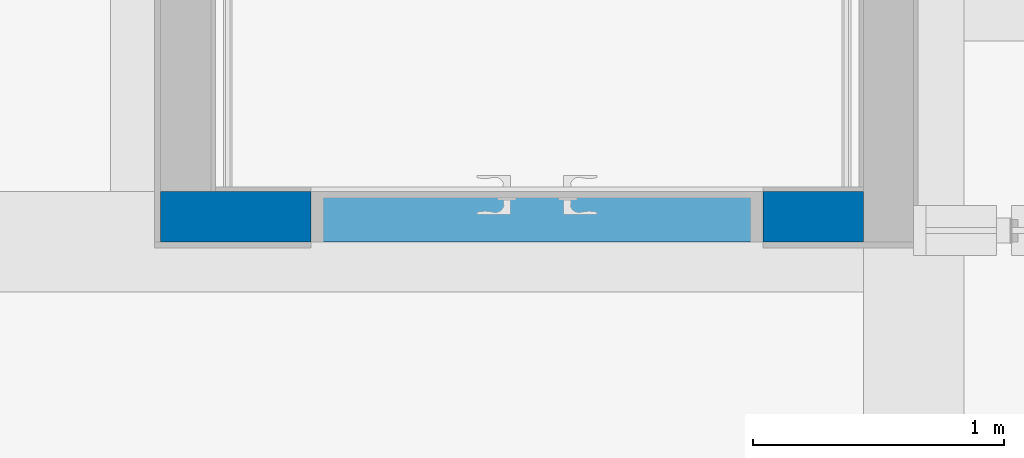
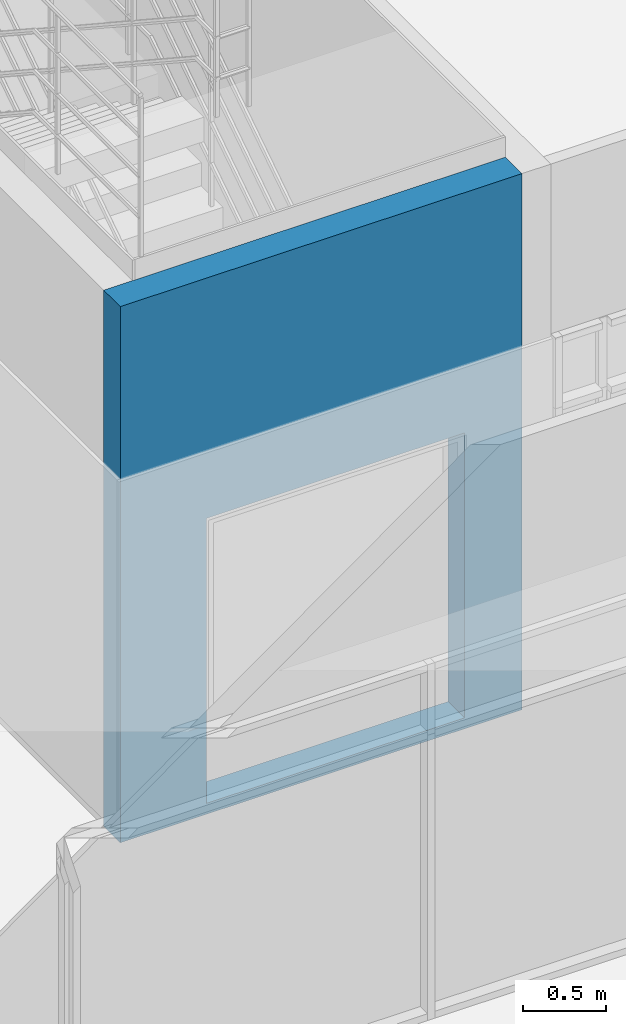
# One storey, part 45 of 81: 1 wall, 1 opening.
"""IFC2X3 building model written with IfcOpenShell, lengths in millimetres."""

from ifc_helpers import new_model, entity, si_unit, converted_unit, derived_unit, direction, frame, frame_2d, origin, place, context, subcontext, project, spatial, polyline, rectangle, extrude, clip, bounded_halfspace, material, layer, layer_set, layer_usage, type_object, element, save


model = new_model("IFC2X3")

# Units and contexts
model_context = context("Model", 3, precision=0.01, world=origin(), true_north=direction((6.123031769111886e-17, 1.0)))
body_context = subcontext(model_context, "Body", "Model", "MODEL_VIEW")
ifc_project = project(units=[si_unit("LENGTHUNIT", "METRE", prefix="MILLI"), si_unit("AREAUNIT", "SQUARE_METRE"), si_unit("VOLUMEUNIT", "CUBIC_METRE"), converted_unit("PLANEANGLEUNIT", "DEGREE", entity("IfcRatioMeasure", 0.017453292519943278), si_unit("PLANEANGLEUNIT", "RADIAN"), dimensions=[0, 0, 0, 0, 0, 0, 0]), si_unit("MASSUNIT", "GRAM", prefix="KILO"), derived_unit("MASSDENSITYUNIT", [(si_unit("MASSUNIT", "GRAM", prefix="KILO"), 1), (si_unit("LENGTHUNIT", "METRE"), -3)]), derived_unit("MOMENTOFINERTIAUNIT", [(si_unit("LENGTHUNIT", "METRE"), 4)]), si_unit("TIMEUNIT", "SECOND"), si_unit("FREQUENCYUNIT", "HERTZ"), si_unit("THERMODYNAMICTEMPERATUREUNIT", "DEGREE_CELSIUS"), derived_unit("THERMALTRANSMITTANCEUNIT", [(si_unit("MASSUNIT", "GRAM", prefix="KILO"), 1), (si_unit("THERMODYNAMICTEMPERATUREUNIT", "KELVIN"), -1), (si_unit("TIMEUNIT", "SECOND"), -3)]), derived_unit("VOLUMETRICFLOWRATEUNIT", [(si_unit("LENGTHUNIT", "METRE"), 3), (si_unit("TIMEUNIT", "SECOND"), -1)]), derived_unit("MASSFLOWRATEUNIT", [(si_unit("MASSUNIT", "GRAM", prefix="KILO"), 1), (si_unit("TIMEUNIT", "SECOND"), -1)]), derived_unit("ROTATIONALFREQUENCYUNIT", [(si_unit("TIMEUNIT", "SECOND"), -1)]), si_unit("ELECTRICCURRENTUNIT", "AMPERE"), si_unit("ELECTRICVOLTAGEUNIT", "VOLT"), si_unit("POWERUNIT", "WATT"), si_unit("FORCEUNIT", "NEWTON", prefix="KILO"), si_unit("ILLUMINANCEUNIT", "LUX"), si_unit("LUMINOUSFLUXUNIT", "LUMEN"), si_unit("LUMINOUSINTENSITYUNIT", "CANDELA"), derived_unit("USERDEFINED", [(si_unit("MASSUNIT", "GRAM", prefix="KILO"), -1), (si_unit("LENGTHUNIT", "METRE"), -2), (si_unit("TIMEUNIT", "SECOND"), 3), (si_unit("LUMINOUSFLUXUNIT", "LUMEN"), 1)]), derived_unit("SOUNDPOWERUNIT", [(si_unit("MASSUNIT", "GRAM", prefix="KILO"), 1), (si_unit("LENGTHUNIT", "METRE"), 2), (si_unit("TIMEUNIT", "SECOND"), -3)]), derived_unit("SOUNDPRESSUREUNIT", [(si_unit("MASSUNIT", "GRAM", prefix="KILO"), 1), (si_unit("LENGTHUNIT", "METRE"), -1), (si_unit("TIMEUNIT", "SECOND"), -2)]), derived_unit("LINEARVELOCITYUNIT", [(si_unit("LENGTHUNIT", "METRE"), 1), (si_unit("TIMEUNIT", "SECOND"), -1)]), si_unit("PRESSUREUNIT", "PASCAL"), derived_unit("USERDEFINED", [(si_unit("LENGTHUNIT", "METRE"), -2), (si_unit("MASSUNIT", "GRAM", prefix="KILO"), 1), (si_unit("TIMEUNIT", "SECOND"), -2)]), derived_unit("LINEARFORCEUNIT", [(si_unit("MASSUNIT", "GRAM", prefix="KILO"), 1), (si_unit("LENGTHUNIT", "METRE"), 1), (si_unit("TIMEUNIT", "SECOND"), -2), (si_unit("LENGTHUNIT", "METRE"), -1)]), derived_unit("PLANARFORCEUNIT", [(si_unit("MASSUNIT", "GRAM", prefix="KILO"), 1), (si_unit("LENGTHUNIT", "METRE"), 1), (si_unit("TIMEUNIT", "SECOND"), -2), (si_unit("LENGTHUNIT", "METRE"), -2)])], contexts=[model_context])

# Site, building, storey
site_placement = place(None, frame((-14167.972527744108, -657.2125860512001, 0.0)))
site = spatial("IfcSite", under=ifc_project, at=site_placement, Name="Default", CompositionType="ELEMENT")
building_placement = place(site_placement, origin())
building = spatial("IfcBuilding", under=site, at=building_placement, Name="Sample Building", CompositionType="ELEMENT")
storey_placement = place(building_placement, frame((0.0, 0.0, 13400.0)))
storey = spatial("IfcBuildingStorey", under=building, at=storey_placement, Name="지상 4층", CompositionType="ELEMENT", Elevation=13400.00000000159)

# Wall, opening
ifc_material = material(Name="KBIMS-콘크리트")
ifc_layer = layer(ifc_material, 200.0)
ifc_layer_set = layer_set([ifc_layer], Name="기본 벽:WA111-철근콘크리트구조 벽 200mm_CW1")
ifc_layer_usage = layer_usage(ifc_layer_set, "AXIS2", "NEGATIVE", 100.0)
wall_type = type_object("IfcWallType", Name="기본 벽:WA111-철근콘크리트구조 벽 200mm_CW1", PredefinedType="STANDARD", material=ifc_layer_set)
wall_placement = place(storey_placement, frame((37967.96379814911, 15657.212295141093, -2.3000097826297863e-09)))
wall = element("IfcWallStandardCase", 1, at=wall_placement, inside=storey, type_object=wall_type, material=ifc_layer_usage, Name="기본 벽:WA111-철근콘크리트구조 벽 200mm_CW1", ObjectType="기본 벽:WA111-철근콘크리트구조 벽 200mm_CW1", context=body_context, shape_type="Clipping", body=[
    clip(extrude(rectangle(XDim=2800.000000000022, YDim=200.0, at=frame_2d((1400.000000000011, -1.0871303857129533e-12), x_axis=(-1.0, 0.0))), origin(), (0.0, 0.0, 1.0), 3950.0000000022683), bounded_halfspace(frame((0.0, -100.0, 3950.0), z_axis=(0.0, 0.0, -1.0), x_axis=(1.0, 0.0, 0.0)), True, frame((0.0, -100.0, 3950.0), z_axis=(0.0, 0.0, -1.0), x_axis=(1.0, 0.0, 0.0)), polyline([(0.0, 0.0), (0.0, -60960.0), (60960.0, -60960.0), (853440.0, -60960.0), (853440.0, 0.0), (0.0, 0.0)]))),
])
opening_placement = place(wall_placement, frame((600.0, -100.0, 80.0)))
element("IfcOpeningElement", 2, at=opening_placement, cuts=wall, Name="DR121-쌍여닫이문(철재, 방화문):DR121-쌍여닫이문(철재, 방화문) 1800x2100mm:1", ObjectType="Opening", context=body_context, shape_type="SweptSolid", body=[
    extrude(rectangle(XDim=2099.999999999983, YDim=1799.9999999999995, at=frame_2d((1049.999999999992, 899.9999999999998), x_axis=(1.0, 0.0))), frame((0.0, 0.0, 0.0), z_axis=(0.0, 1.0, 0.0), x_axis=(0.0, 0.0, 1.0)), (0.0, 0.0, 1.0), 200.0),
])

save(model, "model.ifc")
